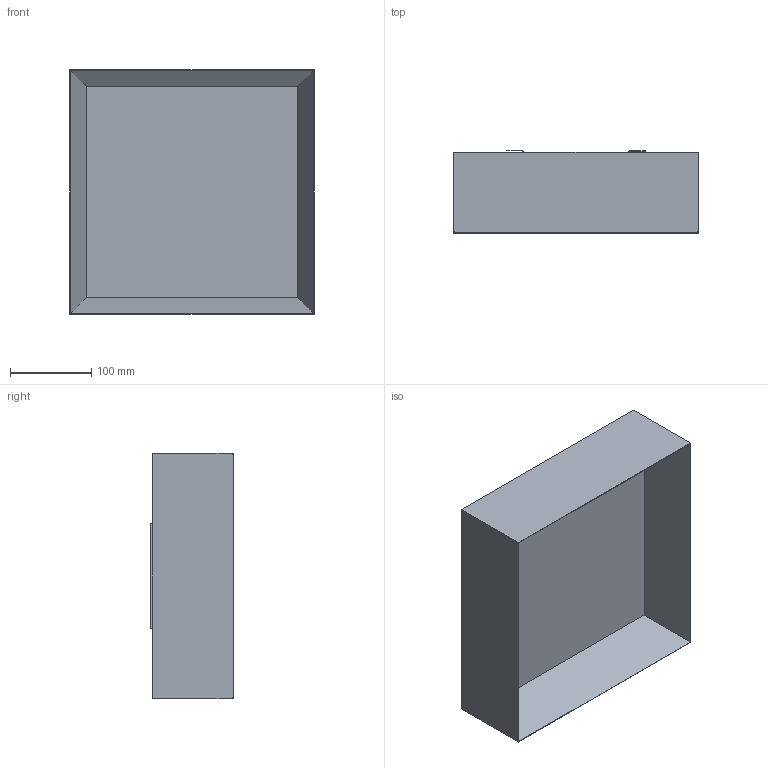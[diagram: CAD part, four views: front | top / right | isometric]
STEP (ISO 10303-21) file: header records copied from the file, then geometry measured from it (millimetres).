
FILE_DESCRIPTION((''),'2;1');
FILE_NAME('PROFILO_300_Q','2026-02-26T08:54:42',('Minervini'),(''),'CREO PARAMETRIC BY PTC INC, 2025010','CREO PARAMETRIC BY PTC INC, 2025010','');
FILE_SCHEMA(('CONFIG_CONTROL_DESIGN'));
Length unit declared in the file: millimetre
Products named in the file (1): PROFILO_300_Q
Bounding box: 300 x 101.38 x 300 mm (x, y, z)
Surface area: 427461.7 mm2 (no closed solid volume)
Topology: 0 solids, 25 shells, 49 faces, 474 edges, 446 vertices
Faces by surface type: plane 31, cylinder 16, bspline 2
Entity records: 5625 total; most frequent: CARTESIAN_POINT 2337, DIRECTION 619, ORIENTED_EDGE 502, EDGE_CURVE 474, VERTEX_POINT 446, VECTOR 301, LINE 301, AXIS2_PLACEMENT_3D 159
